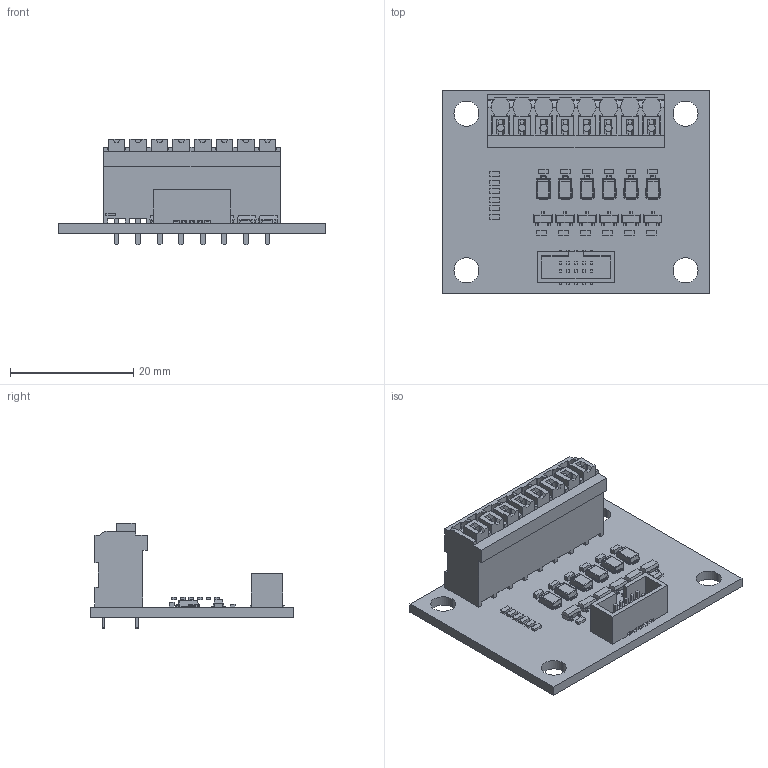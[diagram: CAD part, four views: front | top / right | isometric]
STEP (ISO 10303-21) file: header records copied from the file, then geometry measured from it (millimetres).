
FILE_DESCRIPTION (( 'STEP AP214' ), '1' );
FILE_NAME ('Gadgeteer_Driver_Module_16-688286.STEP', '2017-08-16T18:54:32', ( 'ART' ), ( 'Microsoft' ), 'SwSTEP 2.0', 'SolidWorks 2015', '' );
FILE_SCHEMA (( 'AUTOMOTIVE_DESIGN' ));
Length unit declared in the file: inch
Products named in the file (1): Gadgeteer_Driver_Module_16-688286
Bounding box: 43.18 x 33.02 x 17.1 mm (x, y, z)
Volume: 5005.6 mm3; surface area: 6232.4 mm2
Topology: 33 solids, 33 shells, 1511 faces, 3879 edges, 2442 vertices
Faces by surface type: plane 1092, cylinder 353, sphere 66
Entity records: 65292 total; most frequent: CARTESIAN_POINT 9067, ORIENTED_EDGE 7674, DIRECTION 7113, EDGE_CURVE 3837, VECTOR 3033, LINE 3033, VERTEX_POINT 2442, AXIS2_PLACEMENT_3D 2040
